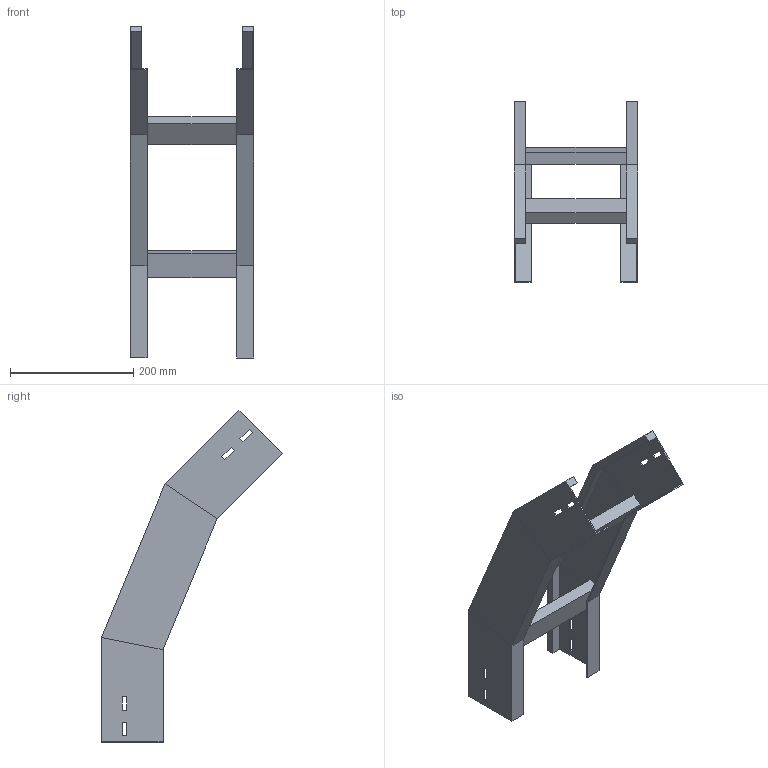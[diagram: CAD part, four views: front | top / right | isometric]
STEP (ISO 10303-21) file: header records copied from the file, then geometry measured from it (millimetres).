
FILE_DESCRIPTION (( 'STEP AP214' ), '1' );
FILE_NAME ('A2_34B3D200.step', '2025-02-21T14:51:27', ( '' ), ( '' ), 'SwSTEP 2.0', 'SolidWorks 2023', '' );
FILE_SCHEMA (( 'AUTOMOTIVE_DESIGN' ));
Length unit declared in the file: millimetre
Products named in the file (3): A2_34B3D200; LONGH.DISCESA_45°_H100_R300; TRAVERSINO_200
Assembly tree (5 placements, depth 2):
  A2_34B3D200
    LONGH.DISCESA_45°_H100_R300  x2
    TRAVERSINO_200  x3
Bounding box: 200 x 294.08 x 539.27 mm (x, y, z)
Volume: 987048.3 mm3; surface area: 400497.4 mm2
Topology: 5 solids, 5 shells, 102 faces, 244 edges, 152 vertices
Faces by surface type: plane 102
Entity records: 1480 total; most frequent: CARTESIAN_POINT 244, ORIENTED_EDGE 232, DIRECTION 228, VECTOR 116, LINE 116, EDGE_CURVE 116, VERTEX_POINT 72, AXIS2_PLACEMENT_3D 56
